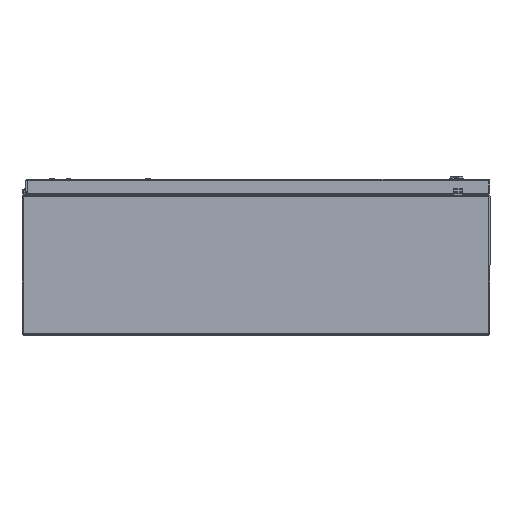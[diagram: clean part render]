
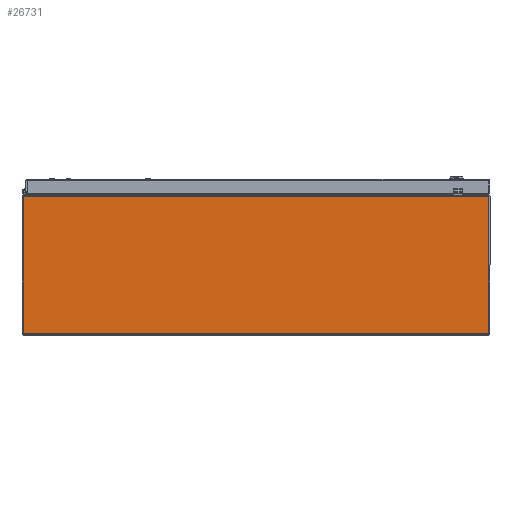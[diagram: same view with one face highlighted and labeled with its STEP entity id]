
A CAD part, front view. The second image highlights one B-rep face of the part: STEP entity #26731.
In plain terms, the highlighted planar face has unit normal (0, -1, 0) as drawn and (0, 1, 0) by its records, which use the part's own axes.
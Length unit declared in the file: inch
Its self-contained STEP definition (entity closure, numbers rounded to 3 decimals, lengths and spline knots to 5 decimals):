
#403 = VERTEX_POINT ( 'NONE', #49048 ) ;
#463 = VERTEX_POINT ( 'NONE', #49083 ) ;
#527 = VERTEX_POINT ( 'NONE', #49120 ) ;
#2869 = VERTEX_POINT ( 'NONE', #42876 ) ;
#18003 = CARTESIAN_POINT ( 'NONE',  ( 17.6365, 0., 10.5 ) ) ;
#18006 = DIRECTION ( 'NONE',  ( -1., 0., 0. ) ) ;
#18067 = CARTESIAN_POINT ( 'NONE',  ( -17.6365, 0., 0.078 ) ) ;
#18069 = DIRECTION ( 'NONE',  ( 0., 0., 1. ) ) ;
#18084 = CARTESIAN_POINT ( 'NONE',  ( 17.6365, 0., 0.078 ) ) ;
#18086 = DIRECTION ( 'NONE',  ( -1., 0., 0. ) ) ;
#18092 = CARTESIAN_POINT ( 'NONE',  ( 17.6365, 0., 0.078 ) ) ;
#18101 = DIRECTION ( 'NONE',  ( 0., 0., 1. ) ) ;
#18771 = VECTOR ( 'NONE', #18006, 39.37008 ) ;
#18778 = LINE ( 'NONE', #18003, #18771 ) ;
#18792 = VECTOR ( 'NONE', #18069, 39.37008 ) ;
#18810 = LINE ( 'NONE', #18067, #18792 ) ;
#18815 = LINE ( 'NONE', #18092, #18843 ) ;
#18828 = LINE ( 'NONE', #18084, #18830 ) ;
#18830 = VECTOR ( 'NONE', #18086, 39.37008 ) ;
#18843 = VECTOR ( 'NONE', #18101, 39.37008 ) ;
#22400 = EDGE_CURVE ( 'NONE', #403, #527, #18778, .T. ) ;
#22421 = EDGE_CURVE ( 'NONE', #2869, #527, #18810, .T. ) ;
#22430 = EDGE_CURVE ( 'NONE', #463, #2869, #18828, .T. ) ;
#22437 = EDGE_CURVE ( 'NONE', #463, #403, #18815, .T. ) ;
#26731 = ADVANCED_FACE ( 'NONE', ( #58646 ), #58307, .F. ) ;
#37884 = ORIENTED_EDGE ( 'NONE', *, *, #22421, .T. ) ;
#37885 = ORIENTED_EDGE ( 'NONE', *, *, #22400, .F. ) ;
#37886 = ORIENTED_EDGE ( 'NONE', *, *, #22437, .F. ) ;
#37887 = ORIENTED_EDGE ( 'NONE', *, *, #22430, .T. ) ;
#42876 = CARTESIAN_POINT ( 'NONE',  ( -17.6365, 0., 0.078 ) ) ;
#49048 = CARTESIAN_POINT ( 'NONE',  ( 17.6365, 0., 10.5 ) ) ;
#49083 = CARTESIAN_POINT ( 'NONE',  ( 17.6365, 0., 0.078 ) ) ;
#49120 = CARTESIAN_POINT ( 'NONE',  ( -17.6365, 0., 10.5 ) ) ;
#51836 = EDGE_LOOP ( 'NONE', ( #37884, #37885, #37886, #37887 ) ) ;
#58302 = CARTESIAN_POINT ( 'NONE',  ( 17.6365, 0., 0.078 ) ) ;
#58307 = PLANE ( 'NONE',  #59098 ) ;
#58312 = DIRECTION ( 'NONE',  ( 0., -1., 0. ) ) ;
#58313 = DIRECTION ( 'NONE',  ( 0., 0., -1. ) ) ;
#58646 = FACE_OUTER_BOUND ( 'NONE', #51836, .T. ) ;
#59098 = AXIS2_PLACEMENT_3D ( 'NONE', #58302, #58312, #58313 ) ;
